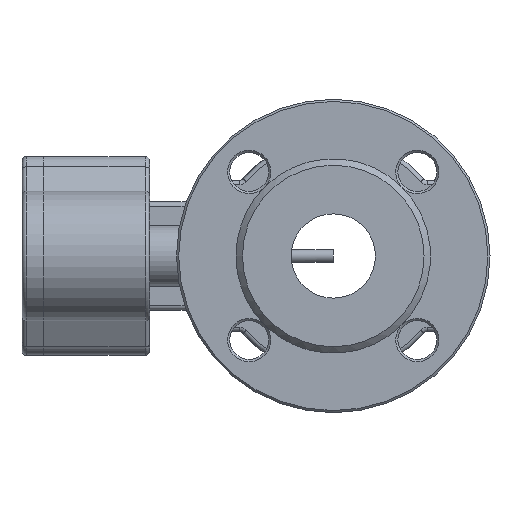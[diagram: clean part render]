
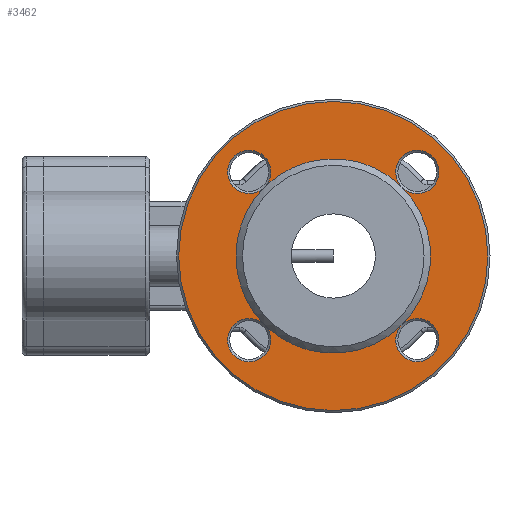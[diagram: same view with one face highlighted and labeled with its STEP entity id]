
A CAD part, left-side view. The second image highlights one B-rep face of the part: STEP entity #3462.
In plain terms, the highlighted planar face has unit normal (-1, 0, 0).
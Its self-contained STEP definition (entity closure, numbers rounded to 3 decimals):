
#3462=ADVANCED_FACE('',(#7071,#7073),#7075,.T.);
#7071=FACE_BOUND('',#7072,.T.);
#7072=EDGE_LOOP('',(#11617));
#7073=FACE_BOUND('',#7074,.T.);
#7074=EDGE_LOOP('',(#11618,#11619,#11620,#11621,#11622,#11623,#11624,#11625,#11626,
#11627,#11628,#11629,#11630));
#7075=PLANE('',#7076);
#7076=AXIS2_PLACEMENT_3D('',#7077,#7078,#7079);
#7077=CARTESIAN_POINT('',(-97.,0.,0.));
#7078=DIRECTION('',(-1.,-0.,-0.));
#7079=DIRECTION('',(0.,1.,0.));
#11617=ORIENTED_EDGE('',*,*,#13056,.F.);
#11618=ORIENTED_EDGE('',*,*,#13057,.T.);
#11619=ORIENTED_EDGE('',*,*,#12974,.T.);
#11620=ORIENTED_EDGE('',*,*,#12978,.T.);
#11621=ORIENTED_EDGE('',*,*,#13058,.T.);
#11622=ORIENTED_EDGE('',*,*,#13059,.T.);
#11623=ORIENTED_EDGE('',*,*,#12977,.T.);
#11624=ORIENTED_EDGE('',*,*,#13060,.T.);
#11625=ORIENTED_EDGE('',*,*,#13061,.T.);
#11626=ORIENTED_EDGE('',*,*,#12976,.T.);
#11627=ORIENTED_EDGE('',*,*,#13062,.T.);
#11628=ORIENTED_EDGE('',*,*,#13063,.T.);
#11629=ORIENTED_EDGE('',*,*,#12975,.T.);
#11630=ORIENTED_EDGE('',*,*,#13064,.T.);
#12974=EDGE_CURVE('',#14865,#14866,#14867,.T.);
#12975=EDGE_CURVE('',#14868,#14865,#14869,.T.);
#12976=EDGE_CURVE('',#14870,#14868,#14871,.T.);
#12977=EDGE_CURVE('',#14872,#14870,#14873,.T.);
#12978=EDGE_CURVE('',#14866,#14872,#14874,.T.);
#13056=EDGE_CURVE('',#15001,#15001,#15002,.T.);
#13057=EDGE_CURVE('',#15003,#14865,#15004,.F.);
#13058=EDGE_CURVE('',#14872,#15005,#15006,.F.);
#13059=EDGE_CURVE('',#15005,#14872,#15007,.F.);
#13060=EDGE_CURVE('',#14870,#15008,#15009,.F.);
#13061=EDGE_CURVE('',#15008,#14870,#15010,.F.);
#13062=EDGE_CURVE('',#14868,#15011,#15012,.F.);
#13063=EDGE_CURVE('',#15011,#14868,#15013,.F.);
#13064=EDGE_CURVE('',#14865,#15003,#15014,.F.);
#14865=VERTEX_POINT('',#20130);
#14866=VERTEX_POINT('',#20131);
#14867=CIRCLE('',#20132,45.);
#14868=VERTEX_POINT('',#20136);
#14869=CIRCLE('',#20137,45.);
#14870=VERTEX_POINT('',#20141);
#14871=CIRCLE('',#20142,45.);
#14872=VERTEX_POINT('',#20146);
#14873=CIRCLE('',#20147,45.);
#14874=CIRCLE('',#20151,45.);
#15001=VERTEX_POINT('',#20488);
#15002=CIRCLE('',#20489,71.5);
#15003=VERTEX_POINT('',#20493);
#15004=CIRCLE('',#20494,10.);
#15005=VERTEX_POINT('',#20498);
#15006=CIRCLE('',#20499,10.);
#15007=CIRCLE('',#20503,10.);
#15008=VERTEX_POINT('',#20507);
#15009=CIRCLE('',#20508,10.);
#15010=CIRCLE('',#20512,10.);
#15011=VERTEX_POINT('',#20516);
#15012=CIRCLE('',#20517,10.);
#15013=CIRCLE('',#20521,10.);
#15014=CIRCLE('',#20525,10.);
#20130=CARTESIAN_POINT('',(-97.,31.82,-31.82));
#20131=CARTESIAN_POINT('',(-97.,45.,0.));
#20132=AXIS2_PLACEMENT_3D('',#20133,#20134,#20135);
#20133=CARTESIAN_POINT('',(-97.,0.,0.));
#20134=DIRECTION('',(1.,0.,0.));
#20135=DIRECTION('',(0.,0.707,-0.707));
#20136=CARTESIAN_POINT('',(-97.,-31.82,-31.82));
#20137=AXIS2_PLACEMENT_3D('',#20138,#20139,#20140);
#20138=CARTESIAN_POINT('',(-97.,0.,0.));
#20139=DIRECTION('',(1.,0.,0.));
#20140=DIRECTION('',(0.,-0.707,-0.707));
#20141=CARTESIAN_POINT('',(-97.,-31.82,31.82));
#20142=AXIS2_PLACEMENT_3D('',#20143,#20144,#20145);
#20143=CARTESIAN_POINT('',(-97.,0.,0.));
#20144=DIRECTION('',(1.,0.,0.));
#20145=DIRECTION('',(0.,-0.707,0.707));
#20146=CARTESIAN_POINT('',(-97.,31.82,31.82));
#20147=AXIS2_PLACEMENT_3D('',#20148,#20149,#20150);
#20148=CARTESIAN_POINT('',(-97.,0.,0.));
#20149=DIRECTION('',(1.,0.,0.));
#20150=DIRECTION('',(0.,0.707,0.707));
#20151=AXIS2_PLACEMENT_3D('',#20152,#20153,#20154);
#20152=CARTESIAN_POINT('',(-97.,0.,0.));
#20153=DIRECTION('',(1.,0.,0.));
#20154=DIRECTION('',(0.,1.,0.));
#20488=CARTESIAN_POINT('',(-97.,71.5,0.));
#20489=AXIS2_PLACEMENT_3D('',#20490,#20491,#20492);
#20490=CARTESIAN_POINT('',(-97.,0.,0.));
#20491=DIRECTION('',(1.,0.,0.));
#20492=DIRECTION('',(0.,1.,0.));
#20493=CARTESIAN_POINT('',(-97.,38.891,-48.891));
#20494=AXIS2_PLACEMENT_3D('',#20495,#20496,#20497);
#20495=CARTESIAN_POINT('',(-97.,38.891,-38.891));
#20496=DIRECTION('',(-1.,0.,-0.));
#20497=DIRECTION('',(0.,-0.707,0.707));
#20498=CARTESIAN_POINT('',(-97.,38.891,28.891));
#20499=AXIS2_PLACEMENT_3D('',#20500,#20501,#20502);
#20500=CARTESIAN_POINT('',(-97.,38.891,38.891));
#20501=DIRECTION('',(-1.,0.,-0.));
#20502=DIRECTION('',(0.,0.,-1.));
#20503=AXIS2_PLACEMENT_3D('',#20504,#20505,#20506);
#20504=CARTESIAN_POINT('',(-97.,38.891,38.891));
#20505=DIRECTION('',(-1.,0.,-0.));
#20506=DIRECTION('',(0.,-0.707,-0.707));
#20507=CARTESIAN_POINT('',(-97.,-38.891,28.891));
#20508=AXIS2_PLACEMENT_3D('',#20509,#20510,#20511);
#20509=CARTESIAN_POINT('',(-97.,-38.891,38.891));
#20510=DIRECTION('',(-1.,0.,-0.));
#20511=DIRECTION('',(0.,0.,-1.));
#20512=AXIS2_PLACEMENT_3D('',#20513,#20514,#20515);
#20513=CARTESIAN_POINT('',(-97.,-38.891,38.891));
#20514=DIRECTION('',(-1.,0.,-0.));
#20515=DIRECTION('',(0.,0.707,-0.707));
#20516=CARTESIAN_POINT('',(-97.,-38.891,-48.891));
#20517=AXIS2_PLACEMENT_3D('',#20518,#20519,#20520);
#20518=CARTESIAN_POINT('',(-97.,-38.891,-38.891));
#20519=DIRECTION('',(-1.,0.,-0.));
#20520=DIRECTION('',(0.,0.,-1.));
#20521=AXIS2_PLACEMENT_3D('',#20522,#20523,#20524);
#20522=CARTESIAN_POINT('',(-97.,-38.891,-38.891));
#20523=DIRECTION('',(-1.,0.,-0.));
#20524=DIRECTION('',(0.,0.707,0.707));
#20525=AXIS2_PLACEMENT_3D('',#20526,#20527,#20528);
#20526=CARTESIAN_POINT('',(-97.,38.891,-38.891));
#20527=DIRECTION('',(-1.,0.,-0.));
#20528=DIRECTION('',(0.,0.,-1.));
